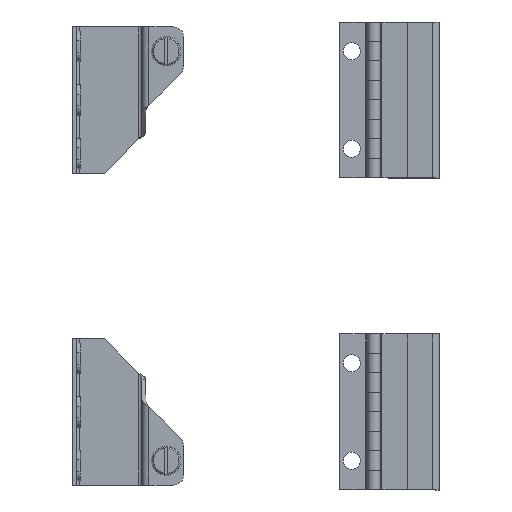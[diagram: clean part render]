
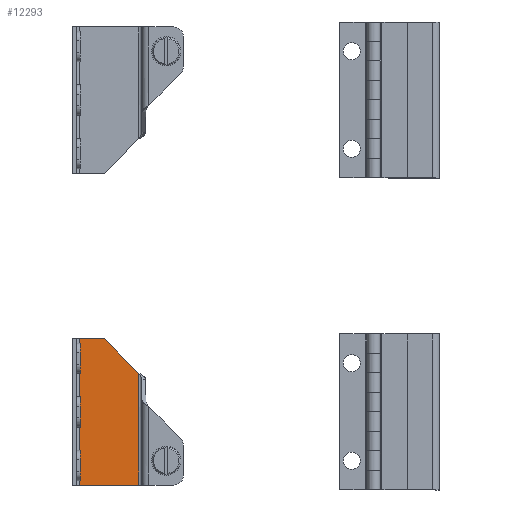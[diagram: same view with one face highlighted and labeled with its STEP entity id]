
A CAD part, top view. The second image highlights one B-rep face of the part: STEP entity #12293.
In plain terms, the highlighted planar face has unit normal (0, 0, 1) as drawn and (0, 0, -1) by its records, which use the part's own axes.
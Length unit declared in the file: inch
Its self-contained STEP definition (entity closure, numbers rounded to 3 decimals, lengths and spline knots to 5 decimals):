
#338 = CARTESIAN_POINT ( 'NONE',  ( 1.875, -1.545, -0.097 ) ) ;
#358 = VECTOR ( 'NONE', #12294, 39.37008 ) ;
#684 = CARTESIAN_POINT ( 'NONE',  ( 1.875, -0.024, -0.097 ) ) ;
#774 = PLANE ( 'NONE',  #12533 ) ;
#1018 = VECTOR ( 'NONE', #12205, 39.37008 ) ;
#1385 = EDGE_CURVE ( 'NONE', #4555, #10766, #2307, .T. ) ;
#1974 = VECTOR ( 'NONE', #11654, 39.37008 ) ;
#1997 = VECTOR ( 'NONE', #6155, 39.37008 ) ;
#2016 = CARTESIAN_POINT ( 'NONE',  ( -1.875, -0.024, -0.097 ) ) ;
#2060 = CARTESIAN_POINT ( 'NONE',  ( 1.875, -1.722, -0.097 ) ) ;
#2279 = VERTEX_POINT ( 'NONE', #5366 ) ;
#2307 = LINE ( 'NONE', #684, #1997 ) ;
#2612 = EDGE_CURVE ( 'NONE', #3587, #12330, #2950, .T. ) ;
#2884 = DIRECTION ( 'NONE',  ( 1., 0., 0. ) ) ;
#2950 = LINE ( 'NONE', #2060, #1974 ) ;
#3489 = LINE ( 'NONE', #11234, #358 ) ;
#3587 = VERTEX_POINT ( 'NONE', #338 ) ;
#3591 = EDGE_CURVE ( 'NONE', #4555, #12330, #9576, .T. ) ;
#3839 = LINE ( 'NONE', #9004, #1018 ) ;
#4555 = VERTEX_POINT ( 'NONE', #13603 ) ;
#4610 = ORIENTED_EDGE ( 'NONE', *, *, #2612, .F. ) ;
#5281 = ORIENTED_EDGE ( 'NONE', *, *, #3591, .T. ) ;
#5290 = FACE_OUTER_BOUND ( 'NONE', #8410, .T. ) ;
#5366 = CARTESIAN_POINT ( 'NONE',  ( -1.875, -1.545, -0.097 ) ) ;
#5870 = ORIENTED_EDGE ( 'NONE', *, *, #1385, .F. ) ;
#6155 = DIRECTION ( 'NONE',  ( -1., 0., 0. ) ) ;
#8161 = CARTESIAN_POINT ( 'NONE',  ( 1.875, -1.722, -0.097 ) ) ;
#8410 = EDGE_LOOP ( 'NONE', ( #5870, #5281, #4610, #9848, #12681 ) ) ;
#9004 = CARTESIAN_POINT ( 'NONE',  ( 1.875, -1.545, -0.097 ) ) ;
#9242 = DIRECTION ( 'NONE',  ( 0., 0., 1. ) ) ;
#9576 = LINE ( 'NONE', #10828, #12053 ) ;
#9848 = ORIENTED_EDGE ( 'NONE', *, *, #12139, .T. ) ;
#10766 = VERTEX_POINT ( 'NONE', #2016 ) ;
#10828 = CARTESIAN_POINT ( 'NONE',  ( 1.875, -0.903, -0.097 ) ) ;
#11234 = CARTESIAN_POINT ( 'NONE',  ( -1.875, -1.722, -0.097 ) ) ;
#11654 = DIRECTION ( 'NONE',  ( 0., 1., 0. ) ) ;
#12053 = VECTOR ( 'NONE', #12541, 39.37008 ) ;
#12139 = EDGE_CURVE ( 'NONE', #3587, #2279, #3839, .T. ) ;
#12205 = DIRECTION ( 'NONE',  ( -1., 0., 0. ) ) ;
#12222 = EDGE_CURVE ( 'NONE', #2279, #10766, #3489, .T. ) ;
#12293 = ADVANCED_FACE ( 'NONE', ( #5290 ), #774, .F. ) ;
#12294 = DIRECTION ( 'NONE',  ( 0., 1., 0. ) ) ;
#12330 = VERTEX_POINT ( 'NONE', #12465 ) ;
#12465 = CARTESIAN_POINT ( 'NONE',  ( 1.875, -0.903, -0.097 ) ) ;
#12533 = AXIS2_PLACEMENT_3D ( 'NONE', #8161, #9242, #2884 ) ;
#12541 = DIRECTION ( 'NONE',  ( 0.707, -0.707, 0. ) ) ;
#12681 = ORIENTED_EDGE ( 'NONE', *, *, #12222, .T. ) ;
#13603 = CARTESIAN_POINT ( 'NONE',  ( 0.996, -0.024, -0.097 ) ) ;
